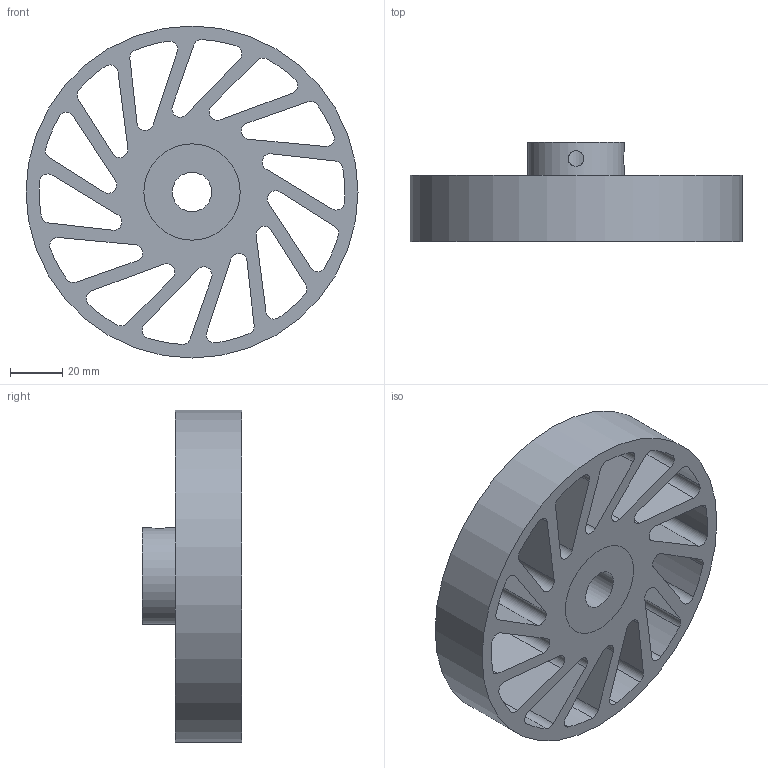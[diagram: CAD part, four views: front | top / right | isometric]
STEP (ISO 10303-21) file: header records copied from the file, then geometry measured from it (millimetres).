
FILE_DESCRIPTION(/* description */ (''),/* implementation_level */ '2;1');
FILE_NAME(/* name */ 'NCWM-460-XXX-YYY.stp',/* time_stamp */ '2023-02-02T16:32:36-06:00',/* author */ ('AG'),/* organization */ ('Meridian Laboratory'),/* preprocessor_version */ 'ST-DEVELOPER v18.1',/* originating_system */ 'Autodesk Inventor 2022',/* authorisation */ '');
FILE_SCHEMA (('AUTOMOTIVE_DESIGN { 1 0 10303 214 3 1 1 }'));
Length unit declared in the file: millimetre
Products named in the file (1): NCWM-440
Bounding box: 127 x 38.1 x 127 mm (x, y, z)
Volume: 186570.2 mm3; surface area: 64186.1 mm2
Topology: 2 solids, 2 shells, 94 faces, 276 edges, 186 vertices
Faces by surface type: cylinder 62, plane 32
Full cylindrical faces by diameter (mm): 6 x2, 15.025 x1, 36.83 x2, 127 x1
Entity records: 3528 total; most frequent: CARTESIAN_POINT 697, DIRECTION 576, ORIENTED_EDGE 552, EDGE_CURVE 276, AXIS2_PLACEMENT_3D 215, VERTEX_POINT 186, LINE 146, VECTOR 146
